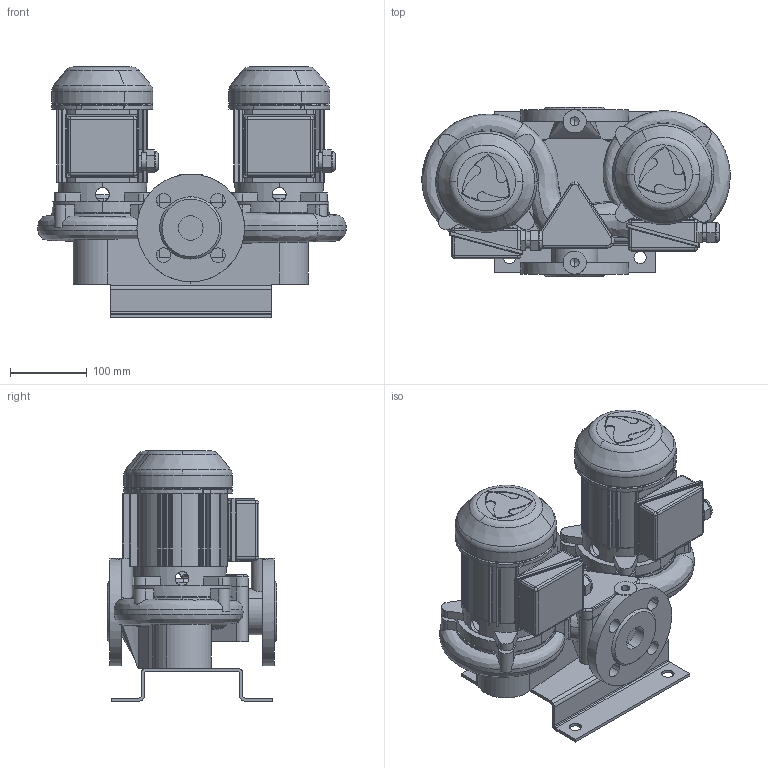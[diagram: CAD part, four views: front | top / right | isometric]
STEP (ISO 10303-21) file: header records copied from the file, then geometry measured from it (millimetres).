
FILE_DESCRIPTION(('STEP AP214'),'1');
FILE_NAME('export.stp','2018-05-30T07:16:39',(' '),(' '),'Spatial InterOp 3D',' ',' ');
FILE_SCHEMA(('AUTOMOTIVE_DESIGN { 1 0 10303 214 1 1 1 1 }'));
Length unit declared in the file: millimetre
Products named in the file (13): V_MOP741; RU_OP_741; TSUOJA_OP_7; KYTKOTELO_OP7_OKN8; W_T32A2250; V_EKN12OP7; V_TLL32AAP15AKP25; V_PPT32A; V_JALKA35973
Assembly tree (14 placements, depth 3):
  W_T32A2250
    V_MOP741
      RU_OP_741
      TSUOJA_OP_7
      KYTKOTELO_OP7_OKN8
    V_MOP741
      RU_OP_741
      TSUOJA_OP_7
      KYTKOTELO_OP7_OKN8
    V_EKN12OP7  x2
    V_TLL32AAP15AKP25  x2
    V_PPT32A
    V_JALKA35973
Bounding box: 401.05 x 220 x 325.5 mm (x, y, z)
Volume: 6741360.2 mm3; surface area: 938599.3 mm2
Topology: 12 solids, 14 shells, 1013 faces, 2733 edges, 1749 vertices
Faces by surface type: cylinder 556, plane 288, bspline 85, torus 34, cone 26, sphere 24
Entity records: 53104 total; most frequent: CARTESIAN_POINT 12915, DIRECTION 5140, ORIENTED_EDGE 5038, STYLED_ITEM 2635, PRESENTATION_STYLE_ASSIGNMENT 2635, COLOUR_RGB 2635, EDGE_CURVE 2519, AXIS2_PLACEMENT_3D 2058
